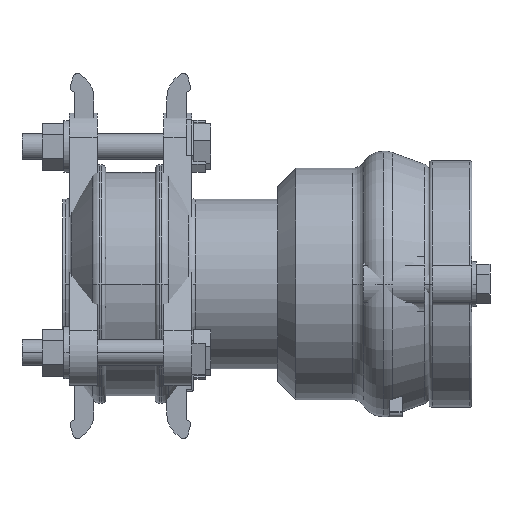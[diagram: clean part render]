
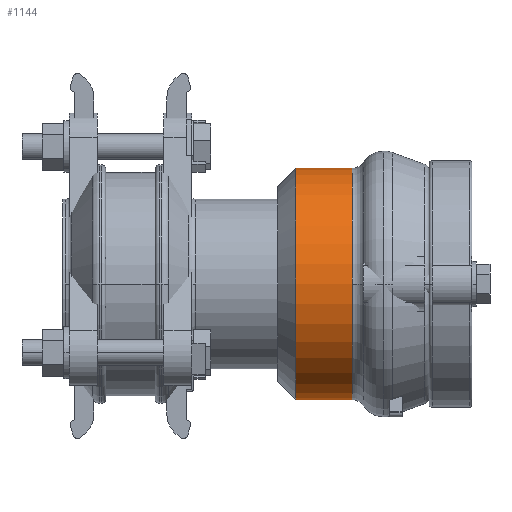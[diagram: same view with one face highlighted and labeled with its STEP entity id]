
A CAD part, front view. The second image highlights one B-rep face of the part: STEP entity #1144.
In plain terms, the highlighted cylindrical face has radius 53.9 mm (diameter 107.8 mm), a partial arc.
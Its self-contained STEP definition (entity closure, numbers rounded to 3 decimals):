
#1144=ADVANCED_FACE('',(#2254),#2255,.T.);
#2254=FACE_OUTER_BOUND('',#3656,.T.);
#2255=CYLINDRICAL_SURFACE('',#3657,53.9);
#3656=EDGE_LOOP('',(#5561,#5562,#5563,#5564,#5565));
#3657=AXIS2_PLACEMENT_3D('',#5566,#5567,#5568);
#5561=ORIENTED_EDGE('',*,*,#8136,.T.);
#5562=ORIENTED_EDGE('',*,*,#8137,.F.);
#5563=ORIENTED_EDGE('',*,*,#8138,.T.);
#5564=ORIENTED_EDGE('',*,*,#7664,.T.);
#5565=ORIENTED_EDGE('',*,*,#8139,.T.);
#5566=CARTESIAN_POINT('',(30.761,0.,0.0));
#5567=DIRECTION('',(-1.0,0.,0.));
#5568=DIRECTION('',(0.,0.,1.0));
#7664=EDGE_CURVE('',#9025,#9023,#9026,.T.);
#8136=EDGE_CURVE('',#9768,#8859,#9769,.T.);
#8137=EDGE_CURVE('',#8862,#8859,#9770,.T.);
#8138=EDGE_CURVE('',#8862,#9025,#9771,.T.);
#8139=EDGE_CURVE('',#9023,#9768,#9772,.T.);
#8859=VERTEX_POINT('',#10666);
#8862=VERTEX_POINT('',#10670);
#9023=VERTEX_POINT('',#10871);
#9025=VERTEX_POINT('',#10873);
#9026=CIRCLE('',#10874,53.9);
#9768=VERTEX_POINT('',#11835);
#9769=LINE('',#11836,#11837);
#9770=CIRCLE('',#11838,53.9);
#9771=LINE('',#11839,#11840);
#9772=CIRCLE('',#11841,53.9);
#10666=CARTESIAN_POINT('',(17.614,0.,53.9));
#10670=CARTESIAN_POINT('',(17.614,0.,-53.9));
#10871=CARTESIAN_POINT('',(43.908,-53.9,0.));
#10873=CARTESIAN_POINT('',(43.908,0.,-53.9));
#10874=AXIS2_PLACEMENT_3D('',#12935,#12936,#12937);
#11835=CARTESIAN_POINT('',(43.908,0.,53.9));
#11836=CARTESIAN_POINT('',(30.761,0.,53.9));
#11837=VECTOR('',#13562,1.0);
#11838=AXIS2_PLACEMENT_3D('',#13563,#13564,#13565);
#11839=CARTESIAN_POINT('',(30.761,0.,-53.9));
#11840=VECTOR('',#13566,1.0);
#11841=AXIS2_PLACEMENT_3D('',#13567,#13568,#13569);
#12935=CARTESIAN_POINT('',(43.908,0.,0.0));
#12936=DIRECTION('',(-1.0,0.,0.));
#12937=DIRECTION('',(0.,0.,1.0));
#13562=DIRECTION('',(-1.0,0.,0.));
#13563=CARTESIAN_POINT('',(17.614,0.,0.));
#13564=DIRECTION('',(-1.0,0.,0.));
#13565=DIRECTION('',(0.,0.,1.0));
#13566=DIRECTION('',(1.0,0.,0.));
#13567=CARTESIAN_POINT('',(43.908,0.,0.0));
#13568=DIRECTION('',(-1.0,0.,0.));
#13569=DIRECTION('',(0.,0.,1.0));
